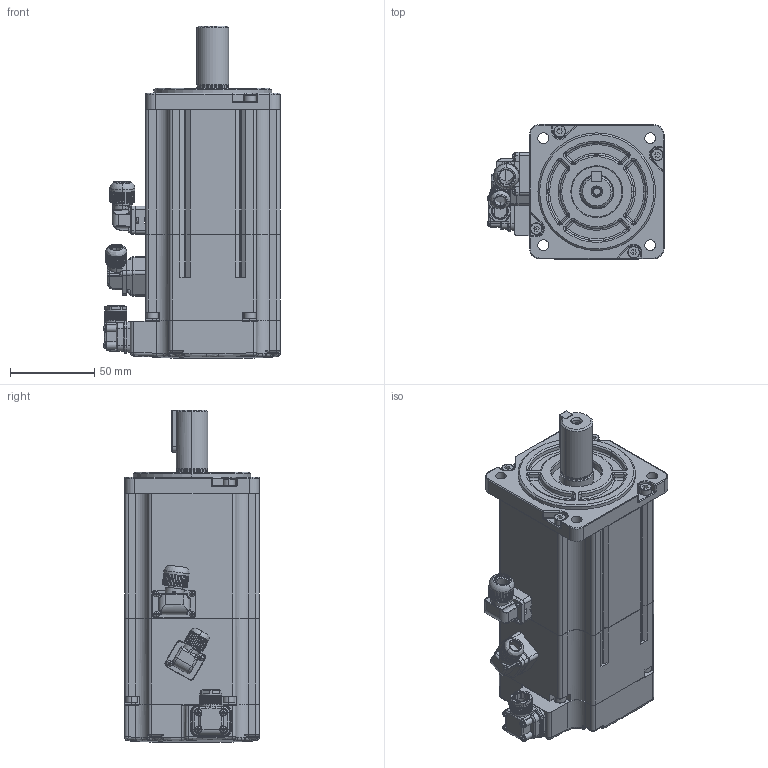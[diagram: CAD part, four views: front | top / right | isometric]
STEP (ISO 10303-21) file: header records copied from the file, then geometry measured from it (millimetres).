
FILE_DESCRIPTION (( 'STEP AP214' ), '1' );
FILE_NAME ('4611170000730.STEP', '2019-01-18T01:46:33', ( '11' ), ( '' ), 'SwSTEP 2.0', 'SolidWorks 2015', '' );
FILE_SCHEMA (( 'AUTOMOTIVE_DESIGN' ));
Length unit declared in the file: millimetre
Products named in the file (1): 4611170000730
Bounding box: 104.81 x 80.1 x 197.5 mm (x, y, z)
Surface area: 81620.8 mm2 (no closed solid volume)
Topology: 0 solids, 66 shells, 1556 faces, 5847 edges, 4129 vertices
Faces by surface type: plane 569, cylinder 461, cone 212, bspline 178, torus 96, sphere 40
Entity records: 101479 total; most frequent: CARTESIAN_POINT 40749, ORIENTED_EDGE 9017, DIRECTION 7689, EDGE_CURVE 5825, VERTEX_POINT 4129, AXIS2_PLACEMENT_3D 2825, B_SPLINE_CURVE_WITH_KNOTS 2206, LINE 2039
